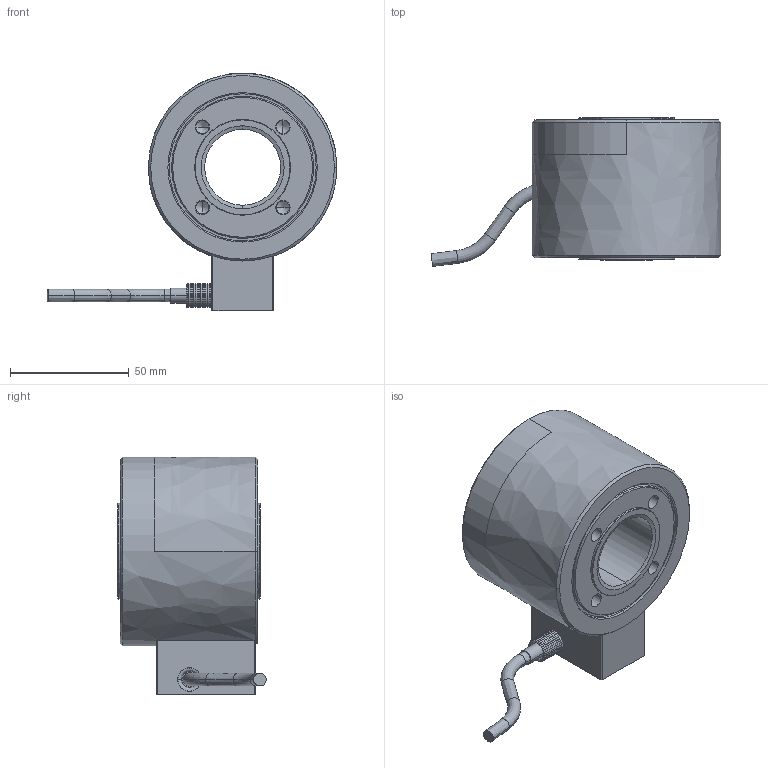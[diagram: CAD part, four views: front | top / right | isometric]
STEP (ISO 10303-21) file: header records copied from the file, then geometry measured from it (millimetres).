
FILE_DESCRIPTION((''),'2;1');
FILE_NAME('C6B_200KN','2018-05-07T',('esche'),(''),'CREO PARAMETRIC BY PTC INC, 2017170','CREO PARAMETRIC BY PTC INC, 2017170','');
FILE_SCHEMA(('CONFIG_CONTROL_DESIGN'));
Length unit declared in the file: millimetre
Products named in the file (1): C6B_200KN
Bounding box: 122.18 x 62.67 x 100.31 mm (x, y, z)
Volume: 263923.7 mm3; surface area: 36172.5 mm2
Topology: 1 solids, 1 shells, 179 faces, 391 edges, 218 vertices
Faces by surface type: bspline 179
Entity records: 7817 total; most frequent: CARTESIAN_POINT 4398, ORIENTED_EDGE 742, DIRECTION 532, EDGE_CURVE 371, VERTEX_POINT 218, EDGE_LOOP 205, AXIS2_PLACEMENT_3D 185, CIRCLE 185
